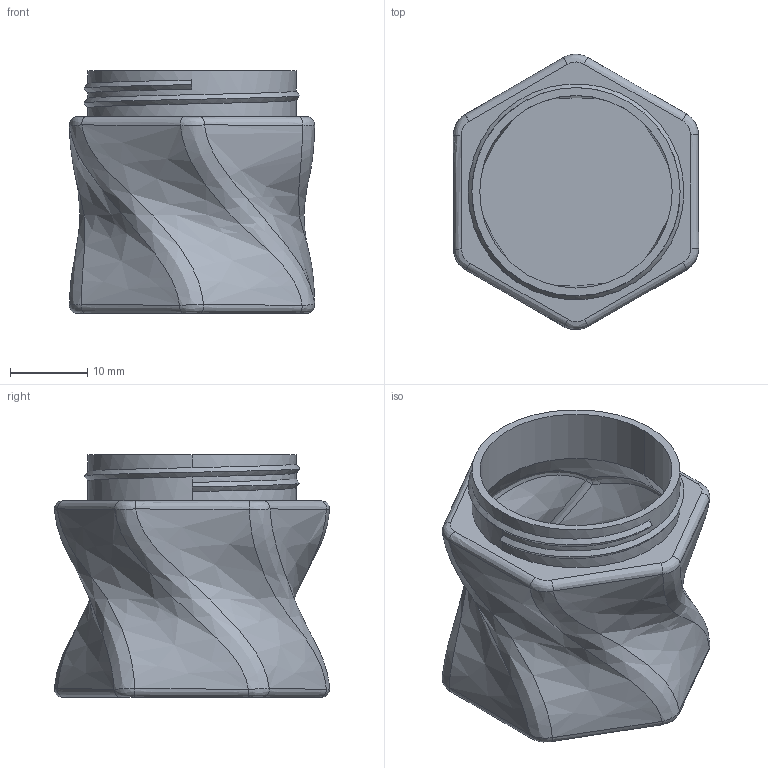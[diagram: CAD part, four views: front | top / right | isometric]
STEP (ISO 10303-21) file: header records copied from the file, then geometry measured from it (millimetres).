
FILE_DESCRIPTION (( 'STEP AP203' ), '1' );
FILE_NAME ('Twisted bottle Bottom.STEP', '2011-10-17T16:15:18', ( 'EMS' ), ( 'Microsoft' ), 'SwSTEP 2.0', 'SolidWorks 2011', '' );
FILE_SCHEMA (( 'CONFIG_CONTROL_DESIGN' ));
Length unit declared in the file: inch
Products named in the file (1): Twisted bottle Bottom
Bounding box: 31.73 x 35.61 x 31.37 mm (x, y, z)
Volume: 5102.4 mm3; surface area: 7735.6 mm2
Topology: 1 solids, 1 shells, 91 faces, 208 edges, 117 vertices
Faces by surface type: bspline 62, sphere 15, cylinder 6, plane 6, cone 2
Entity records: 8206 total; most frequent: CARTESIAN_POINT 6568, ORIENTED_EDGE 392, DIRECTION 224, EDGE_CURVE 196, VERTEX_POINT 109, B_SPLINE_CURVE_WITH_KNOTS 108, AXIS2_PLACEMENT_3D 106, EDGE_LOOP 93
